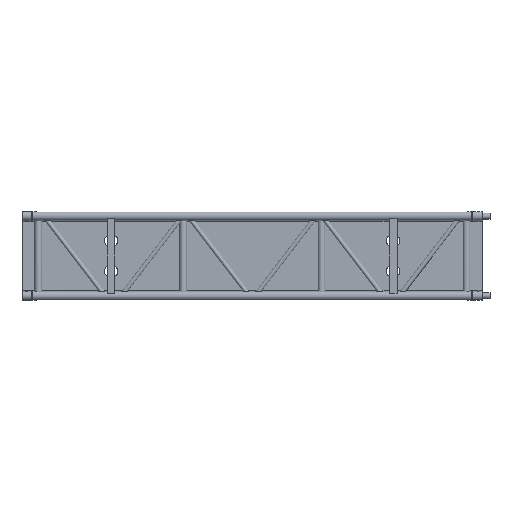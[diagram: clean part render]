
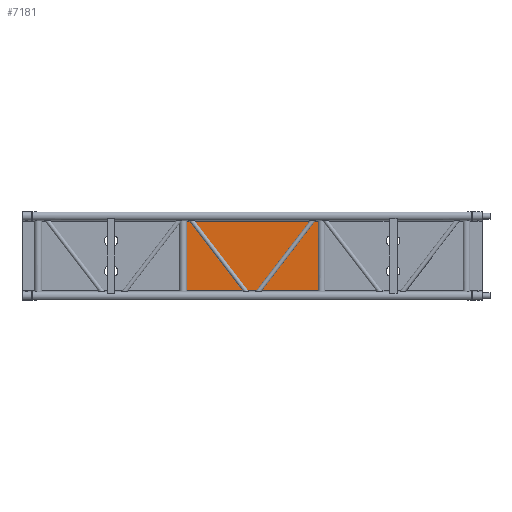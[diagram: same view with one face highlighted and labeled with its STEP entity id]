
A CAD part, front view. The second image highlights one B-rep face of the part: STEP entity #7181.
In plain terms, the highlighted planar face has unit normal (0, -1, 0).
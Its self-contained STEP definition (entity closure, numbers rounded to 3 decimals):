
#914=FACE_OUTER_BOUND('',#1356,.T.);
#1356=EDGE_LOOP('',(#4890,#4891,#4892,#4893));
#2038=LINE('',#12501,#2486);
#2040=LINE('',#12511,#2488);
#2047=LINE('',#12526,#2495);
#2048=LINE('',#12527,#2496);
#2486=VECTOR('',#8821,10.);
#2488=VECTOR('',#8835,10.);
#2495=VECTOR('',#8846,10.);
#2496=VECTOR('',#8847,10.);
#3026=VERTEX_POINT('',#12497);
#3028=VERTEX_POINT('',#12500);
#3030=VERTEX_POINT('',#12510);
#3036=VERTEX_POINT('',#12525);
#3777=EDGE_CURVE('',#3028,#3026,#2038,.T.);
#3780=EDGE_CURVE('',#3028,#3030,#2040,.T.);
#3788=EDGE_CURVE('',#3026,#3036,#2047,.T.);
#3789=EDGE_CURVE('',#3036,#3030,#2048,.T.);
#4890=ORIENTED_EDGE('',*,*,#3777,.T.);
#4891=ORIENTED_EDGE('',*,*,#3788,.T.);
#4892=ORIENTED_EDGE('',*,*,#3789,.T.);
#4893=ORIENTED_EDGE('',*,*,#3780,.F.);
#6496=PLANE('',#7720);
#7181=ADVANCED_FACE('',(#914),#6496,.T.);
#7720=AXIS2_PLACEMENT_3D('',#12524,#8844,#8845);
#8821=DIRECTION('',(0.,0.,1.));
#8835=DIRECTION('',(-1.,0.,0.));
#8844=DIRECTION('center_axis',(0.,-1.,0.));
#8845=DIRECTION('ref_axis',(0.,0.,
1.));
#8846=DIRECTION('',(-1.,0.,0.));
#8847=DIRECTION('',(0.,0.,-1.));
#12497=CARTESIAN_POINT('',(1948.463,74.,-30.));
#12500=CARTESIAN_POINT('',(1948.463,74.,-490.));
#12501=CARTESIAN_POINT('',(1948.463,74.,-260.));
#12510=CARTESIAN_POINT('',(1051.537,74.,-490.));
#12511=CARTESIAN_POINT('',(2418.,74.,-490.));
#12524=CARTESIAN_POINT('Origin',(2418.,74.,-30.));
#12525=CARTESIAN_POINT('',(1051.537,74.,-30.));
#12526=CARTESIAN_POINT('',(2418.,74.,-30.));
#12527=CARTESIAN_POINT('',(1051.537,74.,-260.));
